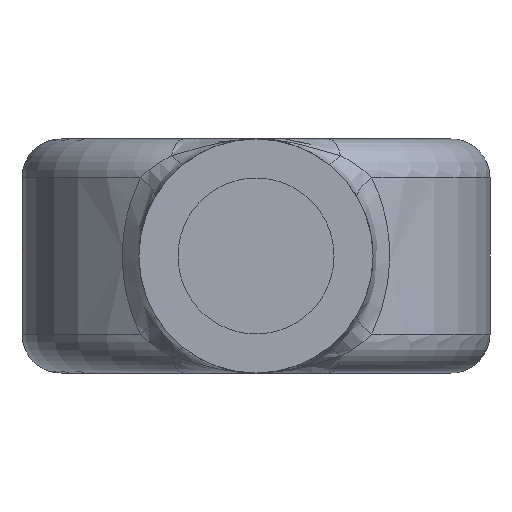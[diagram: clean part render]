
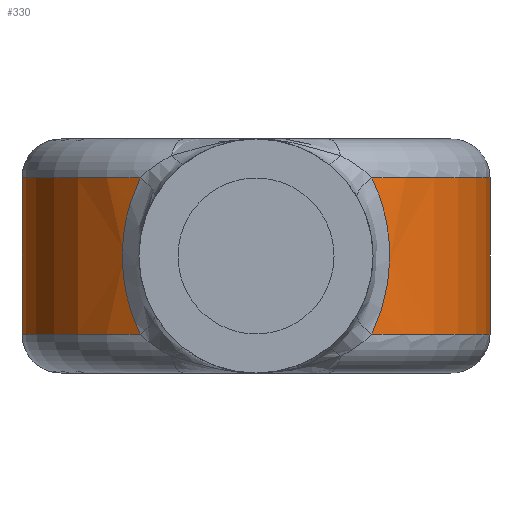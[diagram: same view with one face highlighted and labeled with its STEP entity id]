
A CAD part, front view. The second image highlights one B-rep face of the part: STEP entity #330.
In plain terms, the highlighted cylindrical face has radius 30 mm (diameter 60 mm), a partial arc.
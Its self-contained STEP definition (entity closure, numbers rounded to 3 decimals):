
#30=CYLINDRICAL_SURFACE('',#366,30.);
#43=FACE_OUTER_BOUND('',#67,.T.);
#67=EDGE_LOOP('',(#244,#245,#246,#247));
#88=B_SPLINE_CURVE_WITH_KNOTS('',3,(#645,#646,#647,#648,#649,#650),
 .UNSPECIFIED.,.F.,.F.,(4,1,1,4),(-2.129,-1.216,-0.608,
0.),.UNSPECIFIED.);
#99=B_SPLINE_CURVE_WITH_KNOTS('',3,(#917,#918,#919,#920,#921,#922),
 .UNSPECIFIED.,.F.,.F.,(4,1,1,4),(-2.129,-1.52,-0.912,
0.),.UNSPECIFIED.);
#119=CIRCLE('',#367,30.);
#120=CIRCLE('',#368,30.);
#136=VERTEX_POINT('',#642);
#137=VERTEX_POINT('',#644);
#146=VERTEX_POINT('',#914);
#147=VERTEX_POINT('',#916);
#165=EDGE_CURVE('',#136,#137,#88,.T.);
#180=EDGE_CURVE('',#146,#147,#99,.T.);
#187=EDGE_CURVE('',#147,#136,#119,.T.);
#188=EDGE_CURVE('',#137,#146,#120,.T.);
#244=ORIENTED_EDGE('',*,*,#165,.F.);
#245=ORIENTED_EDGE('',*,*,#187,.F.);
#246=ORIENTED_EDGE('',*,*,#180,.F.);
#247=ORIENTED_EDGE('',*,*,#188,.F.);
#330=ADVANCED_FACE('',(#43),#30,.T.);
#366=AXIS2_PLACEMENT_3D('',#987,#404,#405);
#367=AXIS2_PLACEMENT_3D('',#988,#406,#407);
#368=AXIS2_PLACEMENT_3D('',#989,#408,#409);
#404=DIRECTION('center_axis',(0.,0.,-1.));
#405=DIRECTION('ref_axis',(0.,1.,0.));
#406=DIRECTION('center_axis',(0.,0.,-1.));
#407=DIRECTION('ref_axis',(0.,1.,0.));
#408=DIRECTION('center_axis',(0.,0.,1.));
#409=DIRECTION('ref_axis',(0.,1.,0.));
#642=CARTESIAN_POINT('',(74.846,98.931,0.));
#644=CARTESIAN_POINT('',(74.846,98.931,20.));
#645=CARTESIAN_POINT('Ctrl Pts',(74.846,98.931,0.));
#646=CARTESIAN_POINT('Ctrl Pts',(76.1,99.645,2.533));
#647=CARTESIAN_POINT('Ctrl Pts',(77.43,100.588,7.414));
#648=CARTESIAN_POINT('Ctrl Pts',(76.953,100.238,14.61));
#649=CARTESIAN_POINT('Ctrl Pts',(75.682,99.407,18.311));
#650=CARTESIAN_POINT('Ctrl Pts',(74.846,98.931,20.));
#914=CARTESIAN_POINT('',(45.154,98.931,20.));
#916=CARTESIAN_POINT('',(45.154,98.931,0.));
#917=CARTESIAN_POINT('Ctrl Pts',(45.154,98.931,20.));
#918=CARTESIAN_POINT('Ctrl Pts',(44.318,99.407,18.311));
#919=CARTESIAN_POINT('Ctrl Pts',(43.047,100.238,14.611));
#920=CARTESIAN_POINT('Ctrl Pts',(42.57,100.588,7.414));
#921=CARTESIAN_POINT('Ctrl Pts',(43.9,99.645,2.533));
#922=CARTESIAN_POINT('Ctrl Pts',(45.154,98.931,0.));
#987=CARTESIAN_POINT('Origin',(60.,125.,25.));
#988=CARTESIAN_POINT('Origin',(60.,125.,0.));
#989=CARTESIAN_POINT('Origin',(60.,125.,20.));
